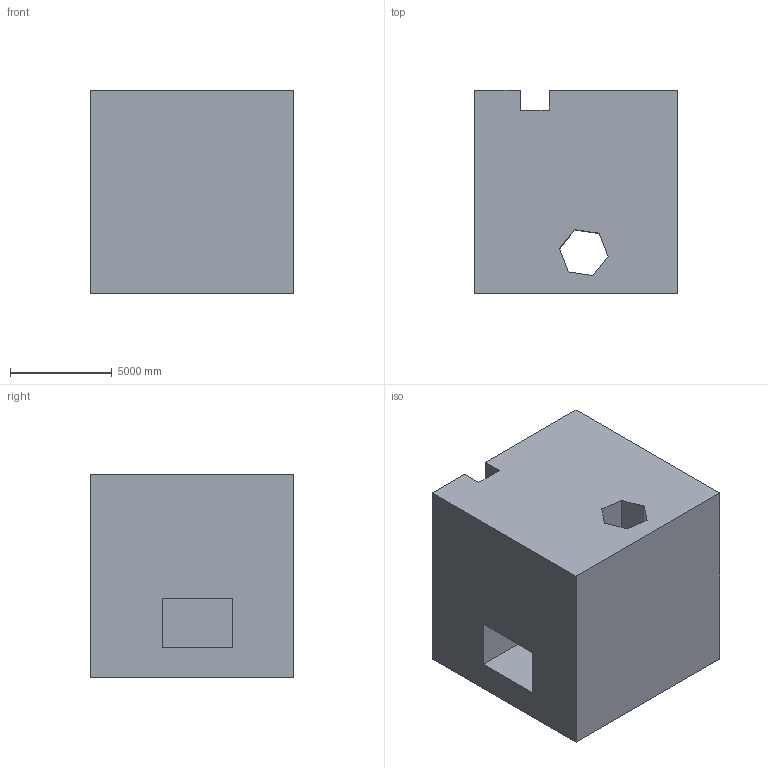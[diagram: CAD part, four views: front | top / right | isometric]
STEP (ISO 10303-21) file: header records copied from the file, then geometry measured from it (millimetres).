
FILE_DESCRIPTION (( 'STEP AP203' ), '1' );
FILE_NAME ('29.STEP', '2022-09-02T13:44:16', ( 'user' ), ( '' ), 'SwSTEP 2.0', 'SolidWorks 2021', '' );
FILE_SCHEMA (( 'CONFIG_CONTROL_DESIGN' ));
Length unit declared in the file: centimetre
Products named in the file (1): 29
Bounding box: 10000 x 10000 x 10000 mm (x, y, z)
Volume: 873831125628.4 mm3; surface area: 780915499.5 mm2
Topology: 1 solids, 1 shells, 22 faces, 63 edges, 42 vertices
Faces by surface type: plane 22
Entity records: 792 total; most frequent: CARTESIAN_POINT 128, ORIENTED_EDGE 126, DIRECTION 109, EDGE_CURVE 63, VECTOR 63, LINE 63, VERTEX_POINT 42, EDGE_LOOP 25
